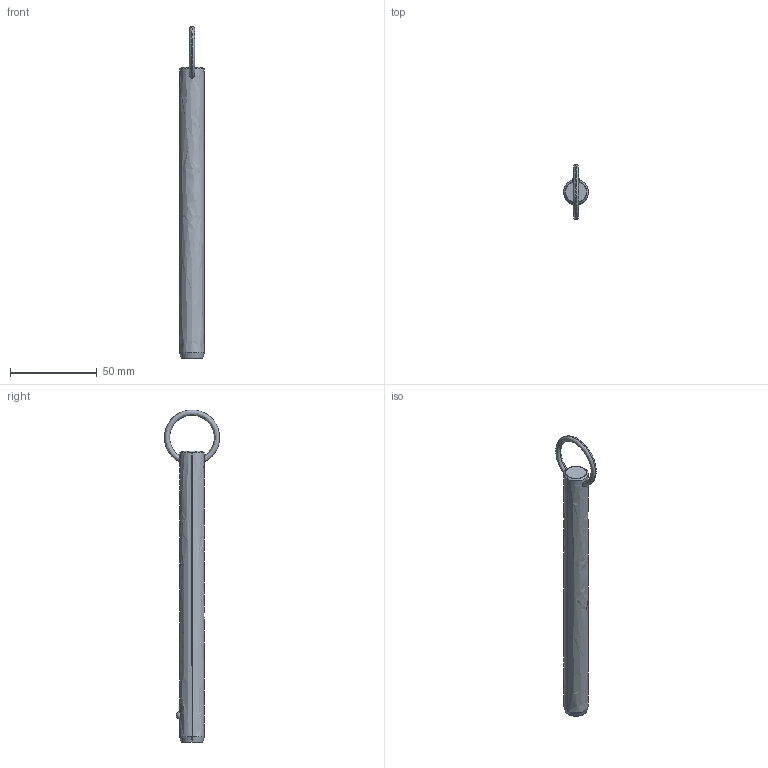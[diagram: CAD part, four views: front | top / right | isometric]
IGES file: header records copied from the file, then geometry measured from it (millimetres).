
Start section: SolidWorks IGES file using analytic representation for surfaces
Global section: file name: C:\Users\liam_\OneDrive\Documents\WORK\Work for WixRoyd\Job Files\J-00019 - Matt Davis CAD Checking\04. CAD Drawings\automotion20190605\P1250.2_v2\P1250.2_v2_20190729_IGES\P1250.056-560.igs; native system: SolidWorks 2017; preprocessor: SolidWorks 2017; author: liam_; date: 190729.232601; units: millimetre
Bounding box: 14.2 x 31.69 x 191.29 mm (x, y, z)
Surface area: 8438.1 mm2 (no closed solid volume)
Topology: 0 solids, 0 shells, 12 faces, 285 edges, 283 vertices
Faces by surface type: revolution 8, bspline 4
